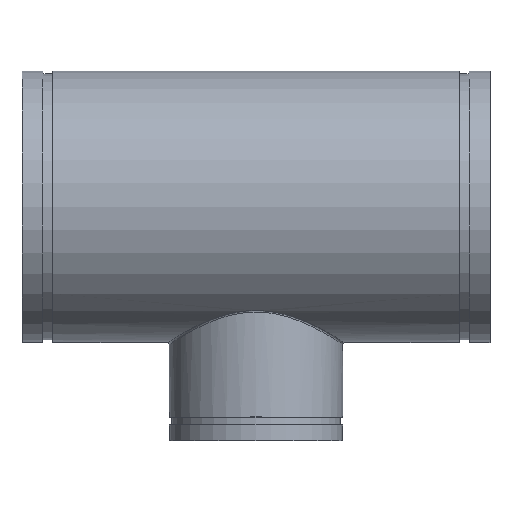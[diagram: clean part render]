
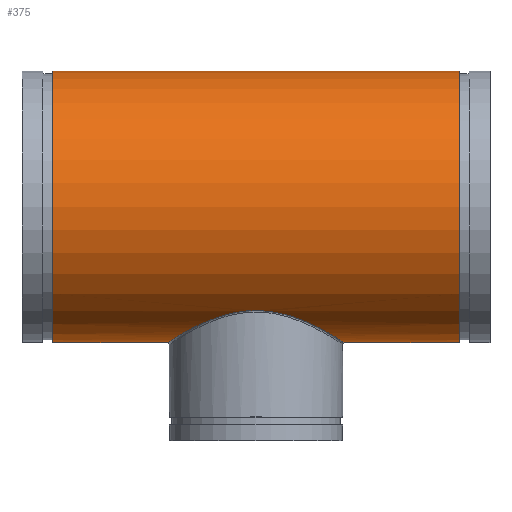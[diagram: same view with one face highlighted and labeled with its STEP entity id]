
A CAD part, top view. The second image highlights one B-rep face of the part: STEP entity #375.
In plain terms, the highlighted cylindrical face has radius 220.98 mm (diameter 441.96 mm), a full revolution.
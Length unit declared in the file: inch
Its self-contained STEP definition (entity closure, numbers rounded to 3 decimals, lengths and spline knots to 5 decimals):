
#54=FACE_BOUND('',#119,.T.);
#65=LINE('',#875,#76);
#76=VECTOR('',#483,8.7);
#87=CYLINDRICAL_SURFACE('',#415,8.7);
#98=FACE_OUTER_BOUND('',#118,.T.);
#118=EDGE_LOOP('',(#266,#267,#268,#269));
#119=EDGE_LOOP('',(#270));
#150=B_SPLINE_CURVE_WITH_KNOTS('',3,(#835,#836,#837,#838,#839,#840,#841,
#842,#843,#844,#845,#846,#847,#848,#849,#850,#851,#852,#853,#854,#855,#856,
#857,#858,#859,#860,#861,#862,#863,#864,#865,#866,#867,#868,#869,#870),
 .UNSPECIFIED.,.T.,.F.,(4,1,1,1,1,1,1,1,1,1,1,1,1,1,1,1,1,1,1,1,1,1,1,1,
1,1,1,1,1,1,1,1,1,4),(-88.10713,-84.96045,-81.81377,
-78.66708,-75.5204,-71.32482,-69.22703,
-67.12924,-65.03145,-62.93367,-60.83588,
-58.73809,-54.54251,-50.34693,-48.24914,
-46.15135,-44.05357,-41.95578,-39.85799,
-37.7602,-33.56462,-29.36904,-25.17347,
-24.12457,-23.07568,-22.02678,-20.97789,
-19.92899,-16.78231,-12.58673,-9.44005,
-6.29337,-3.14668,0.),.UNSPECIFIED.);
#154=CIRCLE('',#416,8.7);
#155=CIRCLE('',#417,8.7);
#182=VERTEX_POINT('',#791);
#185=VERTEX_POINT('',#872);
#186=VERTEX_POINT('',#874);
#219=EDGE_CURVE('',#182,#182,#150,.T.);
#220=EDGE_CURVE('',#185,#185,#154,.T.);
#221=EDGE_CURVE('',#185,#186,#65,.T.);
#222=EDGE_CURVE('',#186,#186,#155,.T.);
#266=ORIENTED_EDGE('',*,*,#220,.T.);
#267=ORIENTED_EDGE('',*,*,#221,.T.);
#268=ORIENTED_EDGE('',*,*,#222,.T.);
#269=ORIENTED_EDGE('',*,*,#221,.F.);
#270=ORIENTED_EDGE('',*,*,#219,.F.);
#375=ADVANCED_FACE('',(#98,#54),#87,.T.);
#415=AXIS2_PLACEMENT_3D('',#871,#479,#480);
#416=AXIS2_PLACEMENT_3D('',#873,#481,#482);
#417=AXIS2_PLACEMENT_3D('',#876,#484,#485);
#479=DIRECTION('center_axis',(-1.,0.,0.));
#480=DIRECTION('ref_axis',(0.,-1.,0.));
#481=DIRECTION('center_axis',(1.,0.,0.));
#482=DIRECTION('ref_axis',(0.,-1.,0.));
#483=DIRECTION('',(1.,0.,0.));
#484=DIRECTION('center_axis',(-1.,0.,0.));
#485=DIRECTION('ref_axis',(0.,-1.,0.));
#791=CARTESIAN_POINT('',(0.,-6.6626,-5.59462));
#835=CARTESIAN_POINT('Ctrl Pts',(0.,-6.6626,
-5.59462));
#836=CARTESIAN_POINT('Ctrl Pts',(0.43823,-6.6626,-5.59462));
#837=CARTESIAN_POINT('Ctrl Pts',(1.31376,-6.74978,-5.49287));
#838=CARTESIAN_POINT('Ctrl Pts',(2.51841,-7.08492,-5.06434));
#839=CARTESIAN_POINT('Ctrl Pts',(3.57001,-7.51941,-4.40527));
#840=CARTESIAN_POINT('Ctrl Pts',(4.5476,-8.01869,-3.44821));
#841=CARTESIAN_POINT('Ctrl Pts',(5.19625,-8.40196,-2.36985));
#842=CARTESIAN_POINT('Ctrl Pts',(5.54568,-8.61807,-1.28677));
#843=CARTESIAN_POINT('Ctrl Pts',(5.68056,-8.70357,-0.43398));
#844=CARTESIAN_POINT('Ctrl Pts',(5.68066,-8.70354,0.43386));
#845=CARTESIAN_POINT('Ctrl Pts',(5.54556,-8.61813,1.28694));
#846=CARTESIAN_POINT('Ctrl Pts',(5.28385,-8.45593,2.09863));
#847=CARTESIAN_POINT('Ctrl Pts',(4.78218,-8.15697,3.10013));
#848=CARTESIAN_POINT('Ctrl Pts',(3.90648,-7.67305,4.16521));
#849=CARTESIAN_POINT('Ctrl Pts',(2.76611,-7.17227,4.93901));
#850=CARTESIAN_POINT('Ctrl Pts',(1.71845,-6.85976,5.35424));
#851=CARTESIAN_POINT('Ctrl Pts',(0.87642,-6.70067,5.54972));
#852=CARTESIAN_POINT('Ctrl Pts',(0.00001,-6.64349,
5.61711));
#853=CARTESIAN_POINT('Ctrl Pts',(-0.8764,-6.70069,5.54973));
#854=CARTESIAN_POINT('Ctrl Pts',(-1.71842,-6.85971,5.35422));
#855=CARTESIAN_POINT('Ctrl Pts',(-2.76617,-7.17233,4.93911));
#856=CARTESIAN_POINT('Ctrl Pts',(-3.90622,-7.67285,4.1651));
#857=CARTESIAN_POINT('Ctrl Pts',(-4.9576,-8.25401,2.88746));
#858=CARTESIAN_POINT('Ctrl Pts',(-5.44663,-8.55653,1.70377));
#859=CARTESIAN_POINT('Ctrl Pts',(-5.61306,-8.66076,0.86032));
#860=CARTESIAN_POINT('Ctrl Pts',(-5.66372,-8.69287,0.43215));
#861=CARTESIAN_POINT('Ctrl Pts',(-5.68066,-8.70358,0.00003));
#862=CARTESIAN_POINT('Ctrl Pts',(-5.66365,-8.6928,-0.43196));
#863=CARTESIAN_POINT('Ctrl Pts',(-5.57966,-8.63971,-1.14599));
#864=CARTESIAN_POINT('Ctrl Pts',(-5.26841,-8.44465,-2.25018));
#865=CARTESIAN_POINT('Ctrl Pts',(-4.54757,-8.01863,-3.44811));
#866=CARTESIAN_POINT('Ctrl Pts',(-3.57003,-7.51944,-4.40532));
#867=CARTESIAN_POINT('Ctrl Pts',(-2.51836,-7.08489,-5.06434));
#868=CARTESIAN_POINT('Ctrl Pts',(-1.31381,-6.7498,-5.49287));
#869=CARTESIAN_POINT('Ctrl Pts',(-0.43823,-6.6626,-5.59462));
#870=CARTESIAN_POINT('Ctrl Pts',(0.,-6.6626,
-5.59462));
#871=CARTESIAN_POINT('Origin',(15.,0.,0.));
#872=CARTESIAN_POINT('',(-13.035,8.7,0.));
#873=CARTESIAN_POINT('Origin',(-13.035,0.,0.));
#874=CARTESIAN_POINT('',(13.035,8.7,0.));
#875=CARTESIAN_POINT('',(15.,8.7,0.));
#876=CARTESIAN_POINT('Origin',(13.035,0.,0.));
